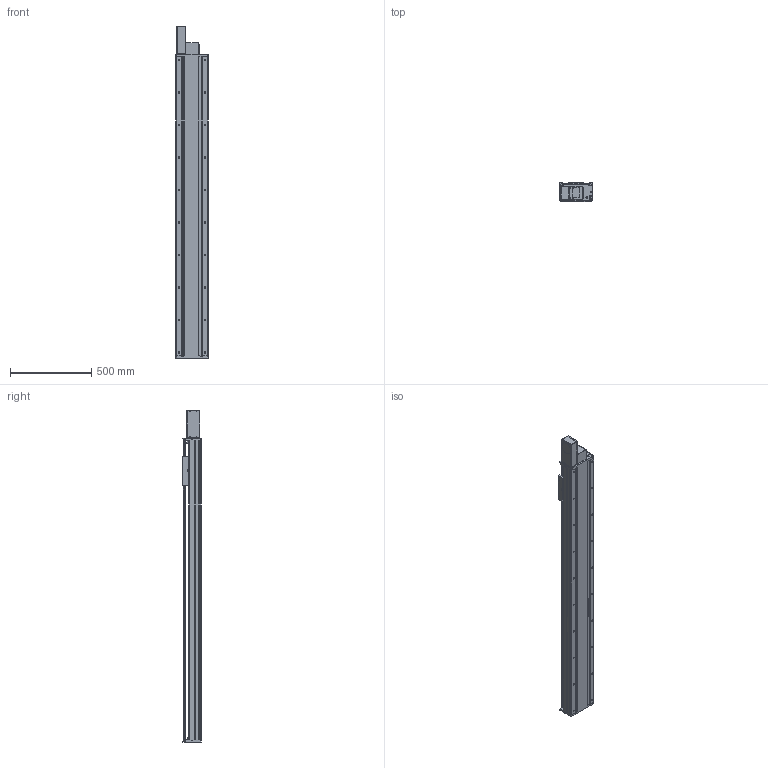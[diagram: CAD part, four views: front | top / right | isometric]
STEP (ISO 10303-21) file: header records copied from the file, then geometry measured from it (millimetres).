
FILE_DESCRIPTION(/* description */ (''),/* implementation_level */ '2;1');
FILE_NAME(/* name */ 'TKB200-FR-1600_asm1.stp',/* time_stamp */ '2016-05-18T11:34:46+08:00',/* author */ (''),/* organization */ (''),/* preprocessor_version */ 'ST-DEVELOPER v15',/* originating_system */ 'SIEMENS PLM Software NX 8.5',/* authorisation */ '');
FILE_SCHEMA (('AUTOMOTIVE_DESIGN { 1 0 10303 214 3 1 1 1 }'));
Length unit declared in the file: millimetre
Products named in the file (3): 200-2; 200-1; TKB200-FR-1600_asm1
Assembly tree (2 placements, depth 2):
  TKB200-FR-1600_asm1
    200-1
    200-2
Bounding box: 200 x 115 x 2045 mm (x, y, z)
Volume: 11713719.6 mm3; surface area: 3728808.4 mm2
Topology: 2 solids, 3 shells, 1066 faces, 3067 edges, 1976 vertices
Faces by surface type: cylinder 503, plane 477, cone 70, bspline 16
Full cylindrical faces by diameter (mm): 2.5 x2, 3.3 x16, 4.3 x4, 4.5 x8, 5 x2, 6.6 x34, 6.8 x8, 8 x6, 9 x28, 10 x4, 11 x22, 12 x16, 14 x20, 75 x1
Entity records: 37297 total; most frequent: CARTESIAN_POINT 10335, DIRECTION 5484, ORIENTED_EDGE 5444, EDGE_CURVE 2722, AXIS2_PLACEMENT_3D 1995, VERTEX_POINT 1874, LINE 1494, VECTOR 1494
